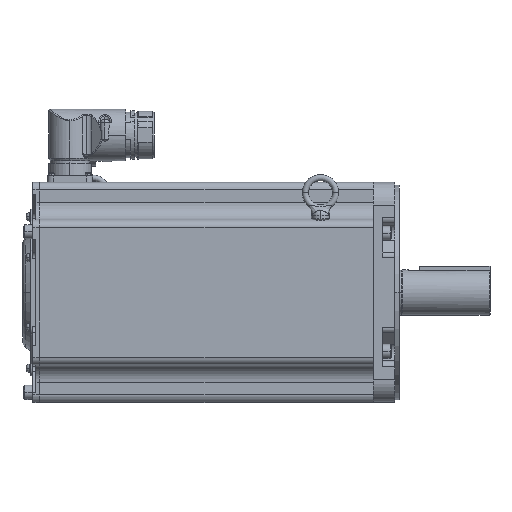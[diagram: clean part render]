
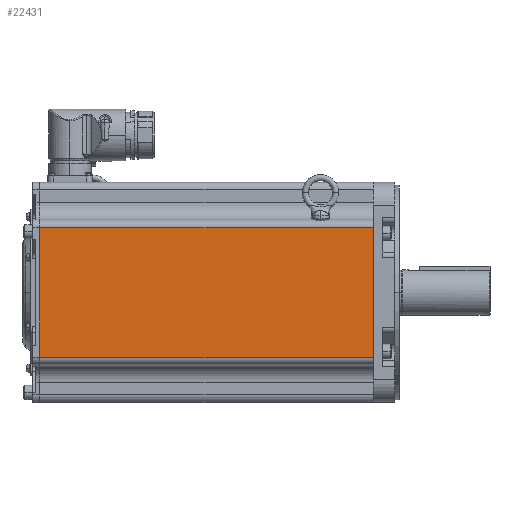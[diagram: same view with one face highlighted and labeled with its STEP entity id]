
A CAD part, top view. The second image highlights one B-rep face of the part: STEP entity #22431.
In plain terms, the highlighted planar face has unit normal (0, 0, 1) as drawn and (0, 0, -1) by its records, which use the part's own axes.
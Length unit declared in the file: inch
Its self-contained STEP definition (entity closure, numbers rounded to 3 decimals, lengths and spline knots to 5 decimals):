
#1077 = VECTOR ( 'NONE', #33951, 39.37008 ) ;
#1471 = EDGE_CURVE ( 'NONE', #30422, #22068, #14111, .T. ) ;
#1662 = CARTESIAN_POINT ( 'NONE',  ( -11.73, -2.14, -3.635 ) ) ;
#1890 = CARTESIAN_POINT ( 'NONE',  ( -0.7, -2.14, -3.635 ) ) ;
#4491 = CARTESIAN_POINT ( 'NONE',  ( -11.73, -2.14, -3.635 ) ) ;
#4702 = EDGE_CURVE ( 'NONE', #35673, #14933, #21286, .T. ) ;
#4707 = AXIS2_PLACEMENT_3D ( 'NONE', #28567, #23121, #6213 ) ;
#5334 = LINE ( 'NONE', #11100, #19461 ) ;
#6213 = DIRECTION ( 'NONE',  ( 1., 0., 0. ) ) ;
#7021 = CARTESIAN_POINT ( 'NONE',  ( -11.73, 2.14, -3.635 ) ) ;
#10069 = EDGE_LOOP ( 'NONE', ( #21005, #22124, #10192, #23860 ) ) ;
#10192 = ORIENTED_EDGE ( 'NONE', *, *, #29433, .F. ) ;
#11100 = CARTESIAN_POINT ( 'NONE',  ( -0.7, 2.39, -3.635 ) ) ;
#12070 = EDGE_CURVE ( 'NONE', #14933, #30422, #5334, .T. ) ;
#14111 = LINE ( 'NONE', #1662, #21569 ) ;
#14202 = CARTESIAN_POINT ( 'NONE',  ( -11.73, 2.39, -3.635 ) ) ;
#14933 = VERTEX_POINT ( 'NONE', #27477 ) ;
#15416 = DIRECTION ( 'NONE',  ( 1., 0., 0. ) ) ;
#18559 = DIRECTION ( 'NONE',  ( -1., 0., 0. ) ) ;
#19461 = VECTOR ( 'NONE', #28005, 39.37008 ) ;
#21005 = ORIENTED_EDGE ( 'NONE', *, *, #12070, .T. ) ;
#21286 = LINE ( 'NONE', #7021, #28833 ) ;
#21569 = VECTOR ( 'NONE', #18559, 39.37008 ) ;
#22068 = VERTEX_POINT ( 'NONE', #4491 ) ;
#22124 = ORIENTED_EDGE ( 'NONE', *, *, #1471, .T. ) ;
#22232 = FACE_OUTER_BOUND ( 'NONE', #10069, .T. ) ;
#22431 = ADVANCED_FACE ( 'NONE', ( #22232 ), #31554, .F. ) ;
#22700 = LINE ( 'NONE', #14202, #1077 ) ;
#23121 = DIRECTION ( 'NONE',  ( 0., 0., 1. ) ) ;
#23860 = ORIENTED_EDGE ( 'NONE', *, *, #4702, .T. ) ;
#25347 = CARTESIAN_POINT ( 'NONE',  ( -11.73, 2.14, -3.635 ) ) ;
#27477 = CARTESIAN_POINT ( 'NONE',  ( -0.7, 2.14, -3.635 ) ) ;
#28005 = DIRECTION ( 'NONE',  ( 0., -1., 0. ) ) ;
#28567 = CARTESIAN_POINT ( 'NONE',  ( -11.73, 2.39, -3.635 ) ) ;
#28833 = VECTOR ( 'NONE', #15416, 39.37008 ) ;
#29433 = EDGE_CURVE ( 'NONE', #35673, #22068, #22700, .T. ) ;
#30422 = VERTEX_POINT ( 'NONE', #1890 ) ;
#31554 = PLANE ( 'NONE',  #4707 ) ;
#33951 = DIRECTION ( 'NONE',  ( 0., -1., 0. ) ) ;
#35673 = VERTEX_POINT ( 'NONE', #25347 ) ;
